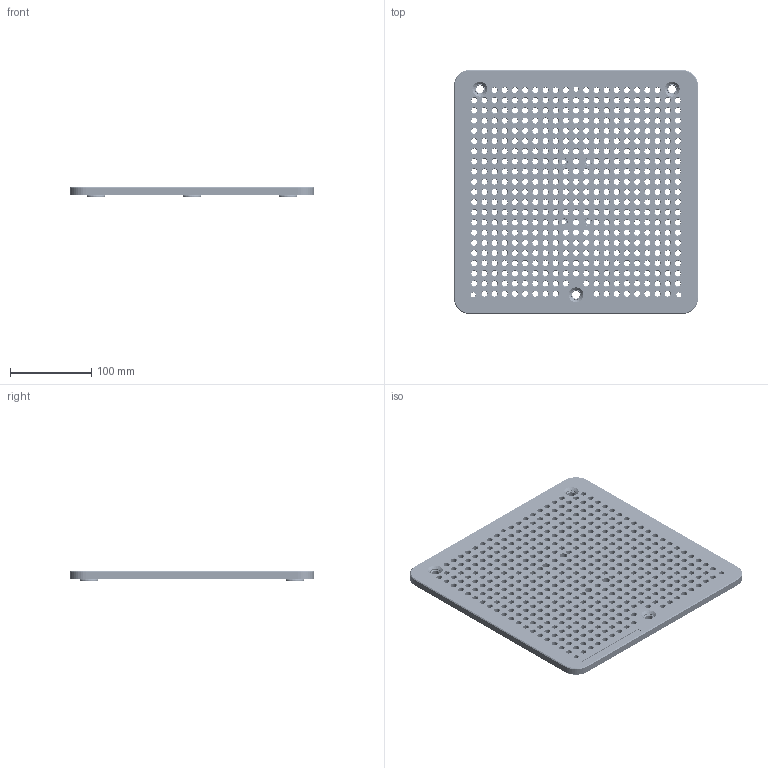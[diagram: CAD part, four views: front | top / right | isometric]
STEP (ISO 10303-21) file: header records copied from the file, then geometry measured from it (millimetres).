
FILE_DESCRIPTION(/* description */ (''),/* implementation_level */ '2;1');
FILE_NAME(/* name */ 'M8 MODULAR BOLT ON.stp',/* time_stamp */ '2021-02-12T12:32:52+00:00',/* author */ (''),/* organization */ (''),/* preprocessor_version */ 'ST-DEVELOPER v16.7',/* originating_system */ 'SIEMENS PLM Software NX 1942',/* authorisation */ '');
FILE_SCHEMA (('AUTOMOTIVE_DESIGN { 1 0 10303 214 3 1 1 1 }'));
Length unit declared in the file: millimetre
Products named in the file (1): jh1424784273ezsk
Bounding box: 300 x 300 x 11.7 mm (x, y, z)
Volume: 729188.2 mm3; surface area: 253477.7 mm2
Topology: 5 solids, 5 shells, 1573 faces, 4240 edges, 2859 vertices
Faces by surface type: cone 896, cylinder 465, plane 212
Full cylindrical faces by diameter (mm): 5.2 x4, 6 x3, 6.9 x426, 9 x4, 9.25 x3, 10 x1, 11.67 x3, 12.27 x3, 12.4 x3, 22 x3
Entity records: 48287 total; most frequent: CARTESIAN_POINT 12079, DIRECTION 6979, ORIENTED_EDGE 5754, EDGE_LOOP 3974, FACE_BOUND 3799, AXIS2_PLACEMENT_3D 3415, EDGE_CURVE 2877, VERTEX_POINT 2838
